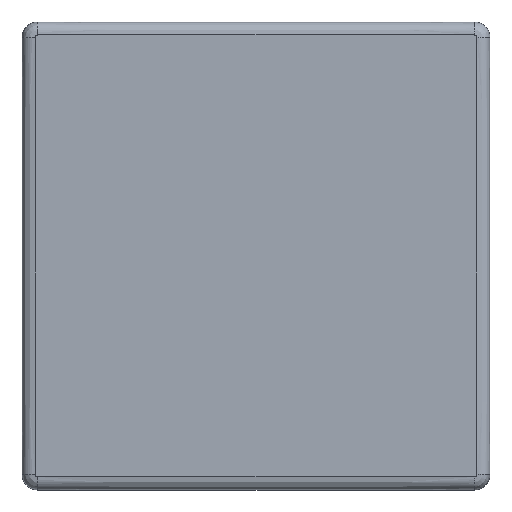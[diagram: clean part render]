
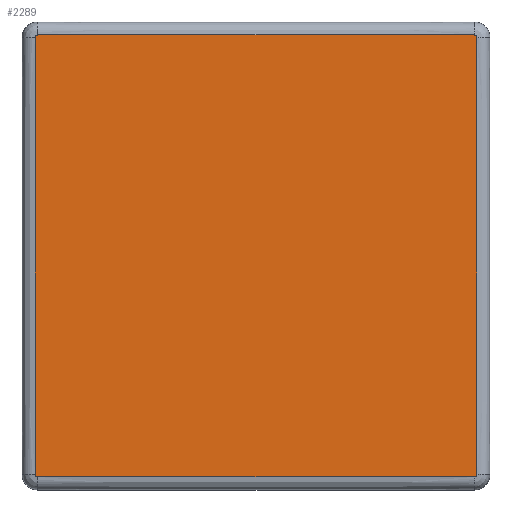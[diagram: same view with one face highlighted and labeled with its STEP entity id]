
A CAD part, top view. The second image highlights one B-rep face of the part: STEP entity #2289.
In plain terms, the highlighted planar face has unit normal (0, 0, 1).
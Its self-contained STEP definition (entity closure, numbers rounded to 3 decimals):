
#373 = CARTESIAN_POINT ( 'NONE',  ( 42.487, -42.131, 4. ) ) ;
#521 = CARTESIAN_POINT ( 'NONE',  ( 42., 42.5, 4. ) ) ;
#526 = CARTESIAN_POINT ( 'NONE',  ( 14., 42.5, 4. ) ) ;
#712 = CARTESIAN_POINT ( 'NONE',  ( 42.252, 42.437, 4. ) ) ;
#718 = B_SPLINE_CURVE_WITH_KNOTS ( 'NONE', 3,
 ( #5299, #7027, #7882, #10209 ),
 .UNSPECIFIED., .F., .F.,
 ( 4, 4 ),
 ( 0., 1. ),
 .UNSPECIFIED. ) ;
#822 = CARTESIAN_POINT ( 'NONE',  ( 42.376, 42.331, 4. ) ) ;
#857 = CARTESIAN_POINT ( 'NONE',  ( 42.131, 42.487, 4. ) ) ;
#944 = VERTEX_POINT ( 'NONE', #8151 ) ;
#1385 = DIRECTION ( 'NONE',  ( 0., 0., -1. ) ) ;
#1552 = ORIENTED_EDGE ( 'NONE', *, *, #6888, .T. ) ;
#1608 = CARTESIAN_POINT ( 'NONE',  ( -42.25, 42.435, 4. ) ) ;
#1666 = EDGE_CURVE ( 'NONE', #7942, #8091, #6393, .T. ) ;
#1679 = CARTESIAN_POINT ( 'NONE',  ( -42.066, 42.5, 4. ) ) ;
#1903 = CARTESIAN_POINT ( 'NONE',  ( 42.437, -42.252, 4. ) ) ;
#2059 = CARTESIAN_POINT ( 'NONE',  ( -42.5, -42.066, 4. ) ) ;
#2078 = CARTESIAN_POINT ( 'NONE',  ( -14., 42.5, 4. ) ) ;
#2182 = CARTESIAN_POINT ( 'NONE',  ( 42.5, 42., 4. ) ) ;
#2289 = ADVANCED_FACE ( 'NONE', ( #10443 ), #2987, .F. ) ;
#2323 = ORIENTED_EDGE ( 'NONE', *, *, #1666, .T. ) ;
#2354 = ORIENTED_EDGE ( 'NONE', *, *, #7277, .T. ) ;
#2486 = CARTESIAN_POINT ( 'NONE',  ( -42.331, 42.376, 4. ) ) ;
#2529 = CARTESIAN_POINT ( 'NONE',  ( 42.308, 42.4, 4. ) ) ;
#2568 = CARTESIAN_POINT ( 'NONE',  ( -42.45, -42.221, 4. ) ) ;
#2735 = CARTESIAN_POINT ( 'NONE',  ( -42.376, -42.331, 4. ) ) ;
#2741 = CARTESIAN_POINT ( 'NONE',  ( 42., -42.5, 4. ) ) ;
#2811 = CARTESIAN_POINT ( 'NONE',  ( 42.331, -42.376, 4. ) ) ;
#2987 = PLANE ( 'NONE',  #7502 ) ;
#3030 = EDGE_CURVE ( 'NONE', #3126, #7779, #3235, .T. ) ;
#3063 = DIRECTION ( 'NONE',  ( -1., 0., 0. ) ) ;
#3101 = CARTESIAN_POINT ( 'NONE',  ( -42.5, -42., 4. ) ) ;
#3126 = VERTEX_POINT ( 'NONE', #10000 ) ;
#3235 = B_SPLINE_CURVE_WITH_KNOTS ( 'NONE', 3,
 ( #4859, #2059, #8996, #2568, #4026, #3398, #2735, #8668, #5553, #9715, #8978, #5896 ),
 .UNSPECIFIED., .F., .F.,
 ( 4, 2, 2, 2, 2, 4 ),
 ( 0., 0.25, 0.375, 0.5, 0.75, 1. ),
 .UNSPECIFIED. ) ;
#3307 = CARTESIAN_POINT ( 'NONE',  ( 42.486, 42.131, 4. ) ) ;
#3398 = CARTESIAN_POINT ( 'NONE',  ( -42.398, -42.304, 4. ) ) ;
#3921 = B_SPLINE_CURVE_WITH_KNOTS ( 'NONE', 3,
 ( #8272, #7551, #8476, #6075 ),
 .UNSPECIFIED., .F., .F.,
 ( 4, 4 ),
 ( 0., 1. ),
 .UNSPECIFIED. ) ;
#3935 = EDGE_LOOP ( 'NONE', ( #4834, #10642, #5115, #1552, #9925, #2323, #2354, #8552 ) ) ;
#4026 = CARTESIAN_POINT ( 'NONE',  ( -42.435, -42.25, 4. ) ) ;
#4120 = CARTESIAN_POINT ( 'NONE',  ( -42.437, 42.252, 4. ) ) ;
#4190 = CARTESIAN_POINT ( 'NONE',  ( -42.4, 42.308, 4. ) ) ;
#4588 = CARTESIAN_POINT ( 'NONE',  ( 42., 42.5, 4. ) ) ;
#4745 = B_SPLINE_CURVE_WITH_KNOTS ( 'NONE', 3,
 ( #2741, #5285, #6971, #9449, #9412, #6839, #2811, #6904, #1903, #373, #7650, #8543 ),
 .UNSPECIFIED., .F., .F.,
 ( 4, 2, 2, 2, 2, 4 ),
 ( 0., 0.25, 0.375, 0.5, 0.75, 1. ),
 .UNSPECIFIED. ) ;
#4834 = ORIENTED_EDGE ( 'NONE', *, *, #3030, .T. ) ;
#4859 = CARTESIAN_POINT ( 'NONE',  ( -42.5, -42., 4. ) ) ;
#4917 = CARTESIAN_POINT ( 'NONE',  ( 42., 42.5, 4. ) ) ;
#5115 = ORIENTED_EDGE ( 'NONE', *, *, #8838, .T. ) ;
#5285 = CARTESIAN_POINT ( 'NONE',  ( 42.066, -42.5, 4. ) ) ;
#5299 = CARTESIAN_POINT ( 'NONE',  ( -42., -42.5, 4. ) ) ;
#5463 = CARTESIAN_POINT ( 'NONE',  ( 0., 0., 4. ) ) ;
#5553 = CARTESIAN_POINT ( 'NONE',  ( -42.252, -42.437, 4. ) ) ;
#5629 = B_SPLINE_CURVE_WITH_KNOTS ( 'NONE', 3,
 ( #7196, #6341, #6417, #3101 ),
 .UNSPECIFIED., .F., .F.,
 ( 4, 4 ),
 ( 0., 1. ),
 .UNSPECIFIED. ) ;
#5660 = CARTESIAN_POINT ( 'NONE',  ( 42.435, 42.25, 4. ) ) ;
#5761 = CARTESIAN_POINT ( 'NONE',  ( -42.5, 42., 4. ) ) ;
#5771 = CARTESIAN_POINT ( 'NONE',  ( 42.45, 42.221, 4. ) ) ;
#5807 = CARTESIAN_POINT ( 'NONE',  ( 42.5, 42.066, 4. ) ) ;
#5830 = CARTESIAN_POINT ( 'NONE',  ( -42.487, 42.131, 4. ) ) ;
#5896 = CARTESIAN_POINT ( 'NONE',  ( -42., -42.5, 4. ) ) ;
#6075 = CARTESIAN_POINT ( 'NONE',  ( 42.5, 42., 4. ) ) ;
#6338 = CARTESIAN_POINT ( 'NONE',  ( -42.5, 42., 4. ) ) ;
#6341 = CARTESIAN_POINT ( 'NONE',  ( -42.5, 14., 4. ) ) ;
#6393 = B_SPLINE_CURVE_WITH_KNOTS ( 'NONE', 3,
 ( #4588, #526, #2078, #9527 ),
 .UNSPECIFIED., .F., .F.,
 ( 4, 4 ),
 ( 0., 1. ),
 .UNSPECIFIED. ) ;
#6411 = EDGE_CURVE ( 'NONE', #7779, #944, #718, .T. ) ;
#6417 = CARTESIAN_POINT ( 'NONE',  ( -42.5, -14., 4. ) ) ;
#6470 = B_SPLINE_CURVE_WITH_KNOTS ( 'NONE', 3,
 ( #6534, #1679, #9808, #9075, #1608, #7367, #2486, #4190, #4120, #5830, #6602, #5761 ),
 .UNSPECIFIED., .F., .F.,
 ( 4, 2, 2, 2, 2, 4 ),
 ( 0., 0.25, 0.375, 0.5, 0.75, 1. ),
 .UNSPECIFIED. ) ;
#6534 = CARTESIAN_POINT ( 'NONE',  ( -42., 42.5, 4. ) ) ;
#6602 = CARTESIAN_POINT ( 'NONE',  ( -42.5, 42.067, 4. ) ) ;
#6655 = CARTESIAN_POINT ( 'NONE',  ( -42., -42.5, 4. ) ) ;
#6839 = CARTESIAN_POINT ( 'NONE',  ( 42.304, -42.398, 4. ) ) ;
#6888 = EDGE_CURVE ( 'NONE', #10595, #9004, #3921, .T. ) ;
#6904 = CARTESIAN_POINT ( 'NONE',  ( 42.4, -42.308, 4. ) ) ;
#6971 = CARTESIAN_POINT ( 'NONE',  ( 42.131, -42.486, 4. ) ) ;
#7027 = CARTESIAN_POINT ( 'NONE',  ( -14., -42.5, 4. ) ) ;
#7173 = EDGE_CURVE ( 'NONE', #8979, #3126, #5629, .T. ) ;
#7196 = CARTESIAN_POINT ( 'NONE',  ( -42.5, 42., 4. ) ) ;
#7277 = EDGE_CURVE ( 'NONE', #8091, #8979, #6470, .T. ) ;
#7367 = CARTESIAN_POINT ( 'NONE',  ( -42.304, 42.398, 4. ) ) ;
#7413 = CARTESIAN_POINT ( 'NONE',  ( 42.067, 42.5, 4. ) ) ;
#7502 = AXIS2_PLACEMENT_3D ( 'NONE', #5463, #1385, #3063 ) ;
#7551 = CARTESIAN_POINT ( 'NONE',  ( 42.5, -14., 4. ) ) ;
#7650 = CARTESIAN_POINT ( 'NONE',  ( 42.5, -42.067, 4. ) ) ;
#7779 = VERTEX_POINT ( 'NONE', #6655 ) ;
#7882 = CARTESIAN_POINT ( 'NONE',  ( 14., -42.5, 4. ) ) ;
#7920 = CARTESIAN_POINT ( 'NONE',  ( -42., 42.5, 4. ) ) ;
#7942 = VERTEX_POINT ( 'NONE', #521 ) ;
#8091 = VERTEX_POINT ( 'NONE', #7920 ) ;
#8151 = CARTESIAN_POINT ( 'NONE',  ( 42., -42.5, 4. ) ) ;
#8272 = CARTESIAN_POINT ( 'NONE',  ( 42.5, -42., 4. ) ) ;
#8476 = CARTESIAN_POINT ( 'NONE',  ( 42.5, 14., 4. ) ) ;
#8543 = CARTESIAN_POINT ( 'NONE',  ( 42.5, -42., 4. ) ) ;
#8552 = ORIENTED_EDGE ( 'NONE', *, *, #7173, .T. ) ;
#8598 = EDGE_CURVE ( 'NONE', #9004, #7942, #9756, .T. ) ;
#8668 = CARTESIAN_POINT ( 'NONE',  ( -42.308, -42.4, 4. ) ) ;
#8838 = EDGE_CURVE ( 'NONE', #944, #10595, #4745, .T. ) ;
#8978 = CARTESIAN_POINT ( 'NONE',  ( -42.067, -42.5, 4. ) ) ;
#8979 = VERTEX_POINT ( 'NONE', #6338 ) ;
#8996 = CARTESIAN_POINT ( 'NONE',  ( -42.486, -42.131, 4. ) ) ;
#9004 = VERTEX_POINT ( 'NONE', #2182 ) ;
#9075 = CARTESIAN_POINT ( 'NONE',  ( -42.221, 42.45, 4. ) ) ;
#9412 = CARTESIAN_POINT ( 'NONE',  ( 42.25, -42.435, 4. ) ) ;
#9449 = CARTESIAN_POINT ( 'NONE',  ( 42.221, -42.45, 4. ) ) ;
#9527 = CARTESIAN_POINT ( 'NONE',  ( -42., 42.5, 4. ) ) ;
#9715 = CARTESIAN_POINT ( 'NONE',  ( -42.131, -42.487, 4. ) ) ;
#9756 = B_SPLINE_CURVE_WITH_KNOTS ( 'NONE', 3,
 ( #9855, #5807, #3307, #5771, #5660, #10605, #822, #2529, #712, #857, #7413, #4917 ),
 .UNSPECIFIED., .F., .F.,
 ( 4, 2, 2, 2, 2, 4 ),
 ( 0., 0.25, 0.375, 0.5, 0.75, 1. ),
 .UNSPECIFIED. ) ;
#9808 = CARTESIAN_POINT ( 'NONE',  ( -42.131, 42.486, 4. ) ) ;
#9855 = CARTESIAN_POINT ( 'NONE',  ( 42.5, 42., 4. ) ) ;
#9925 = ORIENTED_EDGE ( 'NONE', *, *, #8598, .T. ) ;
#10000 = CARTESIAN_POINT ( 'NONE',  ( -42.5, -42., 4. ) ) ;
#10209 = CARTESIAN_POINT ( 'NONE',  ( 42., -42.5, 4. ) ) ;
#10306 = CARTESIAN_POINT ( 'NONE',  ( 42.5, -42., 4. ) ) ;
#10443 = FACE_OUTER_BOUND ( 'NONE', #3935, .T. ) ;
#10595 = VERTEX_POINT ( 'NONE', #10306 ) ;
#10605 = CARTESIAN_POINT ( 'NONE',  ( 42.398, 42.304, 4. ) ) ;
#10642 = ORIENTED_EDGE ( 'NONE', *, *, #6411, .T. ) ;
